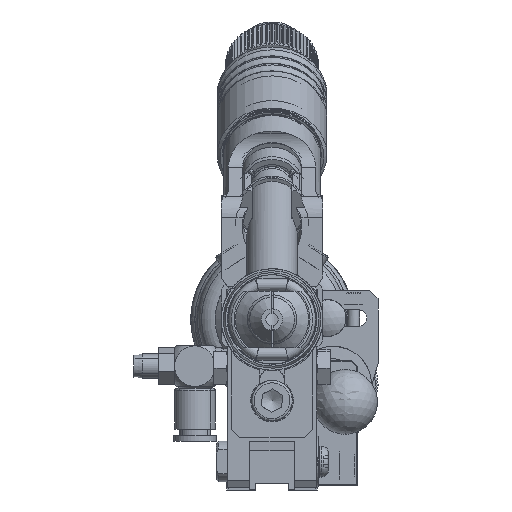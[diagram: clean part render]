
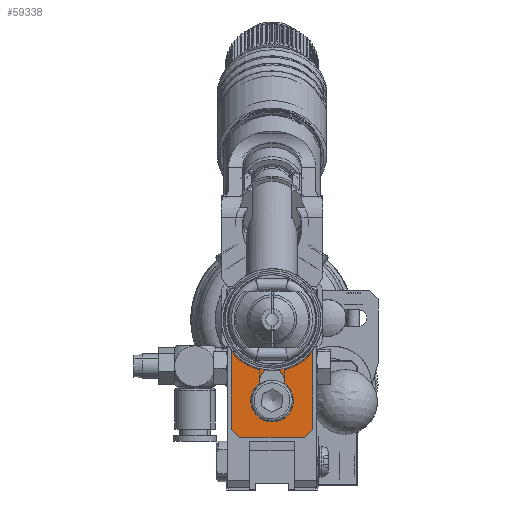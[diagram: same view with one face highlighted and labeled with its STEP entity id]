
A CAD part, left-side view. The second image highlights one B-rep face of the part: STEP entity #59338.
In plain terms, the highlighted planar face has unit normal (-1, 0, 0).
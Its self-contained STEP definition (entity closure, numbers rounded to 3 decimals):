
#3803=FACE_BOUND('',#9705,.T.);
#4445=PLANE('',#63313);
#6377=FACE_OUTER_BOUND('',#9704,.T.);
#9704=EDGE_LOOP('',(#41408,#41409,#41410,#41411,#41412,#41413,#41414,#41415,
#41416));
#9705=EDGE_LOOP('',(#41417,#41418,#41419,#41420));
#13596=LINE('',#87108,#17513);
#13616=LINE('',#87213,#17533);
#13620=LINE('',#87245,#17537);
#13625=LINE('',#87254,#17542);
#13631=LINE('',#87265,#17548);
#13640=LINE('',#87284,#17557);
#13654=LINE('',#87323,#17571);
#13662=LINE('',#87366,#17579);
#13664=LINE('',#87374,#17581);
#17513=VECTOR('',#70697,10.);
#17533=VECTOR('',#70813,10.);
#17537=VECTOR('',#70819,10.);
#17542=VECTOR('',#70826,10.);
#17548=VECTOR('',#70834,10.);
#17557=VECTOR('',#70845,10.);
#17571=VECTOR('',#70883,10.);
#17579=VECTOR('',#70905,10.);
#17581=VECTOR('',#70915,10.);
#21027=CIRCLE('',#63301,3.1);
#21032=CIRCLE('',#63314,10.);
#21033=CIRCLE('',#63315,10.);
#21034=CIRCLE('',#63316,5.25);
#23962=VERTEX_POINT('',#87105);
#23963=VERTEX_POINT('',#87107);
#24000=VERTEX_POINT('',#87212);
#24004=VERTEX_POINT('',#87242);
#24005=VERTEX_POINT('',#87244);
#24008=VERTEX_POINT('',#87253);
#24020=VERTEX_POINT('',#87281);
#24021=VERTEX_POINT('',#87283);
#24025=VERTEX_POINT('',#87297);
#24034=VERTEX_POINT('',#87322);
#24040=VERTEX_POINT('',#87365);
#24041=VERTEX_POINT('',#87369);
#24042=VERTEX_POINT('',#87372);
#30531=EDGE_CURVE('',#23963,#23962,#13596,.T.);
#30583=EDGE_CURVE('',#24000,#23963,#13616,.T.);
#30588=EDGE_CURVE('',#24005,#24004,#13620,.T.);
#30593=EDGE_CURVE('',#24008,#24005,#13625,.T.);
#30599=EDGE_CURVE('',#23962,#24008,#13631,.T.);
#30608=EDGE_CURVE('',#24021,#24020,#13640,.T.);
#30617=EDGE_CURVE('',#24020,#24025,#21027,.T.);
#30630=EDGE_CURVE('',#24034,#24000,#13654,.T.);
#30641=EDGE_CURVE('',#24040,#24034,#13662,.T.);
#30643=EDGE_CURVE('',#24004,#24041,#21032,.T.);
#30644=EDGE_CURVE('',#24041,#24040,#21033,.T.);
#30645=EDGE_CURVE('',#24042,#24021,#21034,.T.);
#30646=EDGE_CURVE('',#24025,#24042,#13664,.T.);
#41408=ORIENTED_EDGE('',*,*,#30531,.T.);
#41409=ORIENTED_EDGE('',*,*,#30599,.T.);
#41410=ORIENTED_EDGE('',*,*,#30593,.T.);
#41411=ORIENTED_EDGE('',*,*,#30588,.T.);
#41412=ORIENTED_EDGE('',*,*,#30643,.T.);
#41413=ORIENTED_EDGE('',*,*,#30644,.T.);
#41414=ORIENTED_EDGE('',*,*,#30641,.T.);
#41415=ORIENTED_EDGE('',*,*,#30630,.T.);
#41416=ORIENTED_EDGE('',*,*,#30583,.T.);
#41417=ORIENTED_EDGE('',*,*,#30645,.T.);
#41418=ORIENTED_EDGE('',*,*,#30608,.T.);
#41419=ORIENTED_EDGE('',*,*,#30617,.T.);
#41420=ORIENTED_EDGE('',*,*,#30646,.T.);
#59338=ADVANCED_FACE('',(#6377,#3803),#4445,.F.);
#63301=AXIS2_PLACEMENT_3D('',#87299,#70863,#70864);
#63313=AXIS2_PLACEMENT_3D('',#87368,#70907,#70908);
#63314=AXIS2_PLACEMENT_3D('',#87370,#70909,#70910);
#63315=AXIS2_PLACEMENT_3D('',#87371,#70911,#70912);
#63316=AXIS2_PLACEMENT_3D('',#87373,#70913,#70914);
#70697=DIRECTION('',(0.,-1.,0.));
#70813=DIRECTION('',(0.,-0.707,-0.707));
#70819=DIRECTION('',(0.,1.,0.));
#70826=DIRECTION('',(0.,0.,1.));
#70834=DIRECTION('',(0.,-0.707,0.707));
#70845=DIRECTION('',(0.,0.,1.));
#70863=DIRECTION('center_axis',(1.,0.,0.));
#70864=DIRECTION('ref_axis',(0.,-1.,0.));
#70883=DIRECTION('',(0.,0.,-1.));
#70905=DIRECTION('',(0.,1.,0.));
#70907=DIRECTION('center_axis',(1.,0.,0.));
#70908=DIRECTION('ref_axis',(0.,0.,
1.));
#70909=DIRECTION('center_axis',(1.,0.,0.));
#70910=DIRECTION('ref_axis',(0.,-0.76,-0.65));
#70911=DIRECTION('center_axis',(1.,0.,0.));
#70912=DIRECTION('ref_axis',(0.,-0.76,-0.65));
#70913=DIRECTION('center_axis',(1.,0.,0.));
#70914=DIRECTION('ref_axis',(0.,0.,
1.));
#70915=DIRECTION('',(0.,0.,-1.));
#87105=CARTESIAN_POINT('',(-300.559,-8.,-29.));
#87107=CARTESIAN_POINT('',(-300.559,8.,-29.));
#87108=CARTESIAN_POINT('',(-300.559,8.,-29.));
#87212=CARTESIAN_POINT('',(-300.559,10.,-27.));
#87213=CARTESIAN_POINT('',(-300.559,10.,-27.));
#87242=CARTESIAN_POINT('',(-300.559,-7.599,-6.5));
#87244=CARTESIAN_POINT('',(-300.559,-10.,-6.5));
#87245=CARTESIAN_POINT('',(-300.559,-10.,-6.5));
#87253=CARTESIAN_POINT('',(-300.559,-10.,-27.));
#87254=CARTESIAN_POINT('',(-300.559,-10.,-27.));
#87265=CARTESIAN_POINT('',(-300.559,-8.,-29.));
#87281=CARTESIAN_POINT('',(-300.559,3.1,-15.2));
#87283=CARTESIAN_POINT('',(-300.559,3.1,-15.763));
#87284=CARTESIAN_POINT('',(-300.559,3.1,-18.784));
#87297=CARTESIAN_POINT('',(-300.559,-3.1,-15.2));
#87299=CARTESIAN_POINT('Origin',(-300.559,0.,
-15.2));
#87322=CARTESIAN_POINT('',(-300.559,10.,-6.5));
#87323=CARTESIAN_POINT('',(-300.559,10.,-6.5));
#87365=CARTESIAN_POINT('',(-300.559,7.599,-6.5));
#87366=CARTESIAN_POINT('',(-300.559,7.599,-6.5));
#87368=CARTESIAN_POINT('Origin',(-300.559,0.,
-17.568));
#87369=CARTESIAN_POINT('',(-300.559,0.,-10.));
#87370=CARTESIAN_POINT('Origin',(-300.559,0.,
0.));
#87371=CARTESIAN_POINT('Origin',(-300.559,0.,
0.));
#87372=CARTESIAN_POINT('',(-300.559,-3.1,-15.763));
#87373=CARTESIAN_POINT('Origin',(-300.559,0.,
-20.));
#87374=CARTESIAN_POINT('',(-300.559,-3.1,-16.384));
